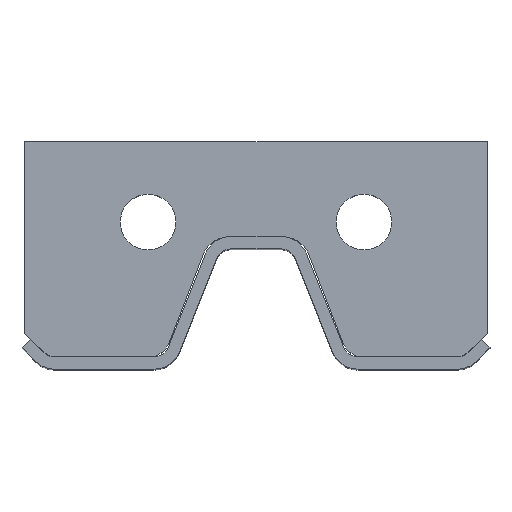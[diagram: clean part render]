
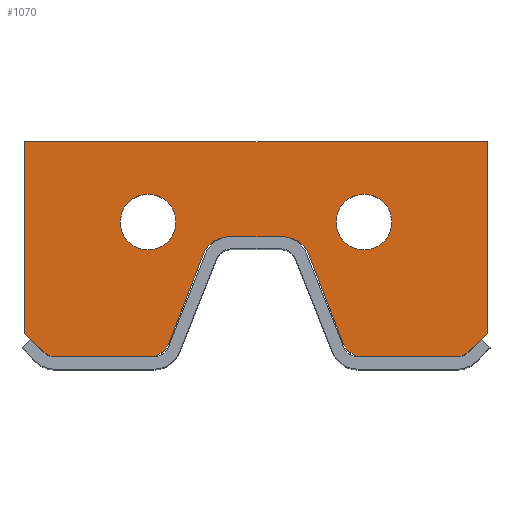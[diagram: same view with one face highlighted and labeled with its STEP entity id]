
A CAD part, top view. The second image highlights one B-rep face of the part: STEP entity #1070.
In plain terms, the highlighted planar face has unit normal (0, 0, 1).
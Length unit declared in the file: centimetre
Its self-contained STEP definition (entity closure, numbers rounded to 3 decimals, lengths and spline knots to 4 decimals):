
#40=FACE_BOUND('',#107,.T.);
#41=FACE_BOUND('',#108,.T.);
#52=FACE_OUTER_BOUND('',#106,.T.);
#106=EDGE_LOOP('',(#716,#717,#718,#719,#720,#721,#722,#723,#724,#725,#726,
#727,#728,#729,#730,#731,#732,#733));
#107=EDGE_LOOP('',(#734));
#108=EDGE_LOOP('',(#735));
#172=CIRCLE('',#1127,0.8);
#173=CIRCLE('',#1128,0.8);
#174=CIRCLE('',#1129,0.8);
#175=CIRCLE('',#1130,0.8);
#176=CIRCLE('',#1131,0.8);
#177=CIRCLE('',#1132,0.8);
#178=CIRCLE('',#1133,0.9);
#179=CIRCLE('',#1134,0.9);
#220=LINE('',#1552,#334);
#221=LINE('',#1556,#335);
#222=LINE('',#1560,#336);
#223=LINE('',#1564,#337);
#224=LINE('',#1566,#338);
#225=LINE('',#1568,#339);
#226=LINE('',#1570,#340);
#227=LINE('',#1572,#341);
#228=LINE('',#1576,#342);
#229=LINE('',#1580,#343);
#230=LINE('',#1584,#344);
#231=LINE('',#1585,#345);
#334=VECTOR('',#1232,0.1);
#335=VECTOR('',#1235,0.1);
#336=VECTOR('',#1238,0.1);
#337=VECTOR('',#1241,0.1);
#338=VECTOR('',#1242,0.1);
#339=VECTOR('',#1243,0.1);
#340=VECTOR('',#1244,0.1);
#341=VECTOR('',#1245,0.1);
#342=VECTOR('',#1248,0.1);
#343=VECTOR('',#1251,0.1);
#344=VECTOR('',#1254,0.1);
#345=VECTOR('',#1255,0.1);
#448=VERTEX_POINT('',#1550);
#449=VERTEX_POINT('',#1551);
#450=VERTEX_POINT('',#1553);
#451=VERTEX_POINT('',#1555);
#452=VERTEX_POINT('',#1557);
#453=VERTEX_POINT('',#1559);
#454=VERTEX_POINT('',#1561);
#455=VERTEX_POINT('',#1563);
#456=VERTEX_POINT('',#1565);
#457=VERTEX_POINT('',#1567);
#458=VERTEX_POINT('',#1569);
#459=VERTEX_POINT('',#1571);
#460=VERTEX_POINT('',#1573);
#461=VERTEX_POINT('',#1575);
#462=VERTEX_POINT('',#1577);
#463=VERTEX_POINT('',#1579);
#464=VERTEX_POINT('',#1581);
#465=VERTEX_POINT('',#1583);
#466=VERTEX_POINT('',#1586);
#467=VERTEX_POINT('',#1588);
#554=EDGE_CURVE('',#448,#449,#220,.T.);
#555=EDGE_CURVE('',#449,#450,#172,.T.);
#556=EDGE_CURVE('',#450,#451,#221,.T.);
#557=EDGE_CURVE('',#451,#452,#173,.T.);
#558=EDGE_CURVE('',#453,#452,#222,.T.);
#559=EDGE_CURVE('',#453,#454,#174,.T.);
#560=EDGE_CURVE('',#454,#455,#223,.T.);
#561=EDGE_CURVE('',#455,#456,#224,.T.);
#562=EDGE_CURVE('',#456,#457,#225,.T.);
#563=EDGE_CURVE('',#457,#458,#226,.T.);
#564=EDGE_CURVE('',#458,#459,#227,.T.);
#565=EDGE_CURVE('',#459,#460,#175,.T.);
#566=EDGE_CURVE('',#461,#460,#228,.T.);
#567=EDGE_CURVE('',#461,#462,#176,.T.);
#568=EDGE_CURVE('',#462,#463,#229,.T.);
#569=EDGE_CURVE('',#463,#464,#177,.T.);
#570=EDGE_CURVE('',#464,#465,#230,.T.);
#571=EDGE_CURVE('',#448,#465,#231,.T.);
#572=EDGE_CURVE('',#466,#466,#178,.T.);
#573=EDGE_CURVE('',#467,#467,#179,.T.);
#716=ORIENTED_EDGE('',*,*,#554,.T.);
#717=ORIENTED_EDGE('',*,*,#555,.T.);
#718=ORIENTED_EDGE('',*,*,#556,.T.);
#719=ORIENTED_EDGE('',*,*,#557,.T.);
#720=ORIENTED_EDGE('',*,*,#558,.F.);
#721=ORIENTED_EDGE('',*,*,#559,.T.);
#722=ORIENTED_EDGE('',*,*,#560,.T.);
#723=ORIENTED_EDGE('',*,*,#561,.T.);
#724=ORIENTED_EDGE('',*,*,#562,.T.);
#725=ORIENTED_EDGE('',*,*,#563,.T.);
#726=ORIENTED_EDGE('',*,*,#564,.T.);
#727=ORIENTED_EDGE('',*,*,#565,.T.);
#728=ORIENTED_EDGE('',*,*,#566,.F.);
#729=ORIENTED_EDGE('',*,*,#567,.T.);
#730=ORIENTED_EDGE('',*,*,#568,.T.);
#731=ORIENTED_EDGE('',*,*,#569,.T.);
#732=ORIENTED_EDGE('',*,*,#570,.T.);
#733=ORIENTED_EDGE('',*,*,#571,.F.);
#734=ORIENTED_EDGE('',*,*,#572,.T.);
#735=ORIENTED_EDGE('',*,*,#573,.T.);
#1040=PLANE('',#1126);
#1070=ADVANCED_FACE('',(#52,#40,#41),#1040,.T.);
#1126=AXIS2_PLACEMENT_3D('',#1549,#1230,#1231);
#1127=AXIS2_PLACEMENT_3D('',#1554,#1233,#1234);
#1128=AXIS2_PLACEMENT_3D('',#1558,#1236,#1237);
#1129=AXIS2_PLACEMENT_3D('',#1562,#1239,#1240);
#1130=AXIS2_PLACEMENT_3D('',#1574,#1246,#1247);
#1131=AXIS2_PLACEMENT_3D('',#1578,#1249,#1250);
#1132=AXIS2_PLACEMENT_3D('',#1582,#1252,#1253);
#1133=AXIS2_PLACEMENT_3D('',#1587,#1256,#1257);
#1134=AXIS2_PLACEMENT_3D('',#1589,#1258,#1259);
#1230=DIRECTION('center_axis',(0.,0.,1.));
#1231=DIRECTION('ref_axis',(1.,0.,0.));
#1232=DIRECTION('',(1.,0.,0.));
#1233=DIRECTION('center_axis',(0.,0.,-1.));
#1234=DIRECTION('ref_axis',(0.566,0.824,0.));
#1235=DIRECTION('',(0.359,-0.933,0.));
#1236=DIRECTION('center_axis',(0.,0.,1.));
#1237=DIRECTION('ref_axis',(-0.566,-0.824,0.));
#1238=DIRECTION('',(-1.,0.,0.));
#1239=DIRECTION('center_axis',(0.,0.,1.));
#1240=DIRECTION('ref_axis',(0.383,-0.924,0.));
#1241=DIRECTION('',(0.707,0.707,0.));
#1242=DIRECTION('',(0.,1.,0.));
#1243=DIRECTION('',(-1.,0.,0.));
#1244=DIRECTION('',(0.,-1.,0.));
#1245=DIRECTION('',(0.707,-0.707,0.));
#1246=DIRECTION('center_axis',(0.,0.,1.));
#1247=DIRECTION('ref_axis',(-0.383,-0.924,0.));
#1248=DIRECTION('',(-1.,0.,0.));
#1249=DIRECTION('center_axis',(0.,0.,1.));
#1250=DIRECTION('ref_axis',(0.566,-0.824,0.));
#1251=DIRECTION('',(0.359,0.933,0.));
#1252=DIRECTION('center_axis',(0.,0.,-1.));
#1253=DIRECTION('ref_axis',(-0.566,0.824,0.));
#1254=DIRECTION('',(1.,0.,0.));
#1255=DIRECTION('',(-1.,0.,0.));
#1256=DIRECTION('center_axis',(0.,0.,-1.));
#1257=DIRECTION('ref_axis',(1.,0.,0.));
#1258=DIRECTION('center_axis',(0.,0.,-1.));
#1259=DIRECTION('ref_axis',(1.,0.,0.));
#1549=CARTESIAN_POINT('Origin',(4.0042,129.8304,1.));
#1550=CARTESIAN_POINT('',(4.8149,129.9396,1.));
#1551=CARTESIAN_POINT('',(4.9548,129.9396,1.));
#1552=CARTESIAN_POINT('',(3.0537,129.9396,1.));
#1553=CARTESIAN_POINT('',(5.7015,129.4268,1.));
#1554=CARTESIAN_POINT('Origin',(4.9548,129.1396,1.));
#1555=CARTESIAN_POINT('',(6.807,126.5524,1.));
#1556=CARTESIAN_POINT('',(5.7015,129.4268,1.));
#1557=CARTESIAN_POINT('',(7.5537,126.0396,1.));
#1558=CARTESIAN_POINT('Origin',(7.5537,126.8396,1.));
#1559=CARTESIAN_POINT('',(10.3729,126.0396,1.));
#1560=CARTESIAN_POINT('',(5.6596,126.0396,1.));
#1561=CARTESIAN_POINT('',(10.9386,126.2739,1.));
#1562=CARTESIAN_POINT('Origin',(10.3729,126.8396,1.));
#1563=CARTESIAN_POINT('',(11.5042,126.8396,1.));
#1564=CARTESIAN_POINT('',(10.9386,126.2739,1.));
#1565=CARTESIAN_POINT('',(11.5042,133.0396,1.));
#1566=CARTESIAN_POINT('',(11.5042,126.8396,1.));
#1567=CARTESIAN_POINT('',(-3.4958,133.0396,1.));
#1568=CARTESIAN_POINT('',(11.5042,133.0396,1.));
#1569=CARTESIAN_POINT('',(-3.4958,126.8396,1.));
#1570=CARTESIAN_POINT('',(-3.4958,133.0396,1.));
#1571=CARTESIAN_POINT('',(-2.9301,126.2739,1.));
#1572=CARTESIAN_POINT('',(-3.4958,126.8396,1.));
#1573=CARTESIAN_POINT('',(-2.3644,126.0396,1.));
#1574=CARTESIAN_POINT('Origin',(-2.3644,126.8396,1.));
#1575=CARTESIAN_POINT('',(0.4548,126.0396,1.));
#1576=CARTESIAN_POINT('',(0.7416,126.0396,1.));
#1577=CARTESIAN_POINT('',(1.2015,126.5524,1.));
#1578=CARTESIAN_POINT('Origin',(0.4548,126.8396,1.));
#1579=CARTESIAN_POINT('',(2.307,129.4268,1.));
#1580=CARTESIAN_POINT('',(1.2015,126.5524,1.));
#1581=CARTESIAN_POINT('',(3.0537,129.9396,1.));
#1582=CARTESIAN_POINT('Origin',(3.0537,129.1396,1.));
#1583=CARTESIAN_POINT('',(3.1936,129.9396,1.));
#1584=CARTESIAN_POINT('',(3.0537,129.9396,1.));
#1585=CARTESIAN_POINT('',(3.5989,129.9396,1.));
#1586=CARTESIAN_POINT('',(1.4042,130.4396,1.));
#1587=CARTESIAN_POINT('Origin',(0.5042,130.4396,1.));
#1588=CARTESIAN_POINT('',(8.4042,130.4396,1.));
#1589=CARTESIAN_POINT('Origin',(7.5042,130.4396,1.));
